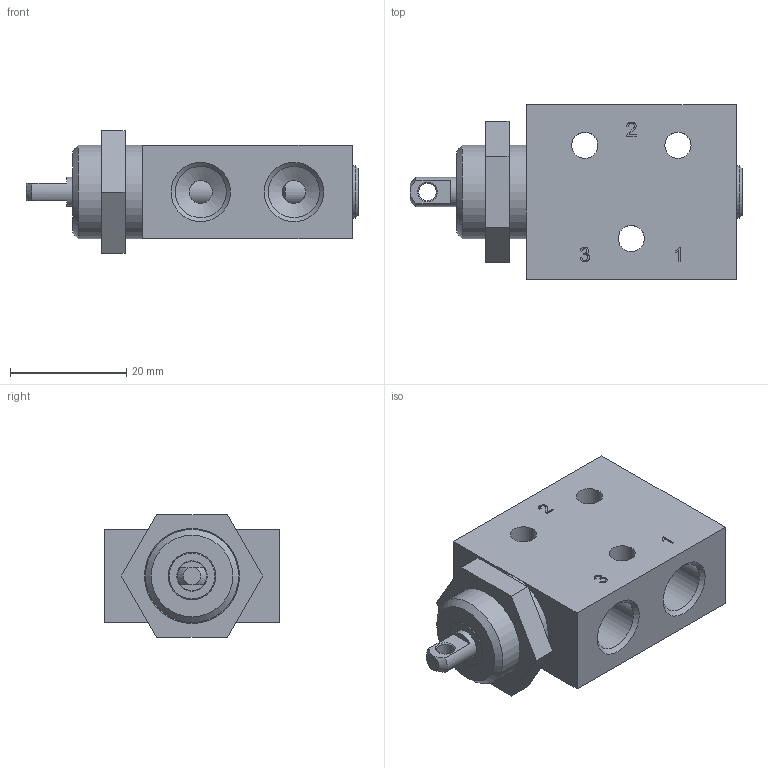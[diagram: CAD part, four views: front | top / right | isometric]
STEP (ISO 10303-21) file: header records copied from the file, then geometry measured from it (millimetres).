
FILE_DESCRIPTION( ( 'Unknown' ), '1' );
FILE_NAME( 'Q:/Solid Edge ST4/weblap modellek/stp/második adag/BZ 311 401.stp', 'Unknown', ( 'Unknown' ), ( 'Unknown' ), 'PSStep 14.0', 'Unknown', ' ' );
FILE_SCHEMA( ( 'AUTOMOTIVE_DESIGN { 1 0 10303 214 1 1 1 1 }' ) );
Length unit declared in the file: millimetre
Products named in the file (6): Assem1; -oa0
Assembly tree (5 placements, depth 2):
  Assem1
    -oa0
    -oa0
    -oa0
    -oa0
    -oa0
Bounding box: 57 x 30 x 21 mm (x, y, z)
Volume: 931.7 mm3; surface area: 8961 mm2
Topology: 1 solids, 93 shells, 108 faces, 471 edges, 428 vertices
Faces by surface type: plane 54, cone 19, cylinder 19, extrusion 16
Full cylindrical faces by diameter (mm): 1 x1, 3 x2, 4.5 x3, 5 x2, 8 x1, 8.05 x1, 8.8 x6, 9 x1, 16 x1
Entity records: 6032 total; most frequent: CARTESIAN_POINT 2361, DIRECTION 652, ORIENTED_EDGE 440, EDGE_CURVE 415, VERTEX_POINT 409, VECTOR 264, LINE 248, AXIS2_PLACEMENT_3D 194
